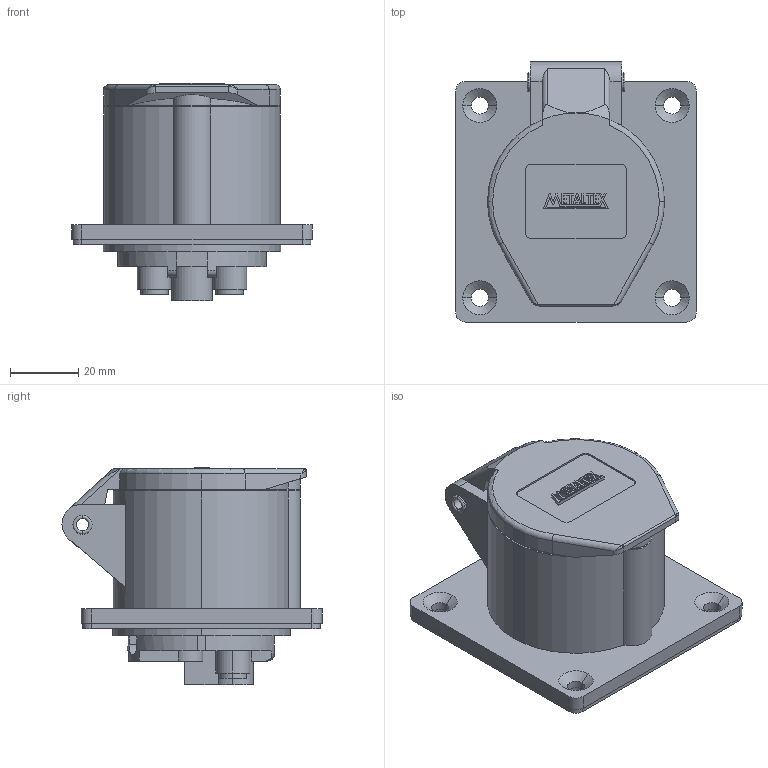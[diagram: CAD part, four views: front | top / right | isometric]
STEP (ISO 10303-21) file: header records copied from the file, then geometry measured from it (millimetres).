
FILE_DESCRIPTION (( 'STEP AP203' ), '1' );
FILE_NAME ('TLR16432..STEP', '2018-04-20T14:16:28', ( '' ), ( '' ), 'SwSTEP 2.0', 'SolidWorks 2012', '' );
FILE_SCHEMA (( 'CONFIG_CONTROL_DESIGN' ));
Length unit declared in the file: millimetre
Products named in the file (4): TLR16432.; TLR16432; METALTEX 18,98
Assembly tree (3 placements, depth 3):
  TLR16432.
    TLR16432
      TLR16432
      METALTEX 18,98
Bounding box: 70.5 x 76.15 x 63.8 mm (x, y, z)
Volume: 135320.3 mm3; surface area: 25833.9 mm2
Topology: 8 solids, 8 shells, 384 faces, 960 edges, 627 vertices
Faces by surface type: plane 232, cylinder 123, torus 17, cone 10, bspline 2
Entity records: 12269 total; most frequent: CARTESIAN_POINT 2478, DIRECTION 1973, ORIENTED_EDGE 1916, EDGE_CURVE 958, AXIS2_PLACEMENT_3D 660, LINE 653, VECTOR 653, VERTEX_POINT 627
